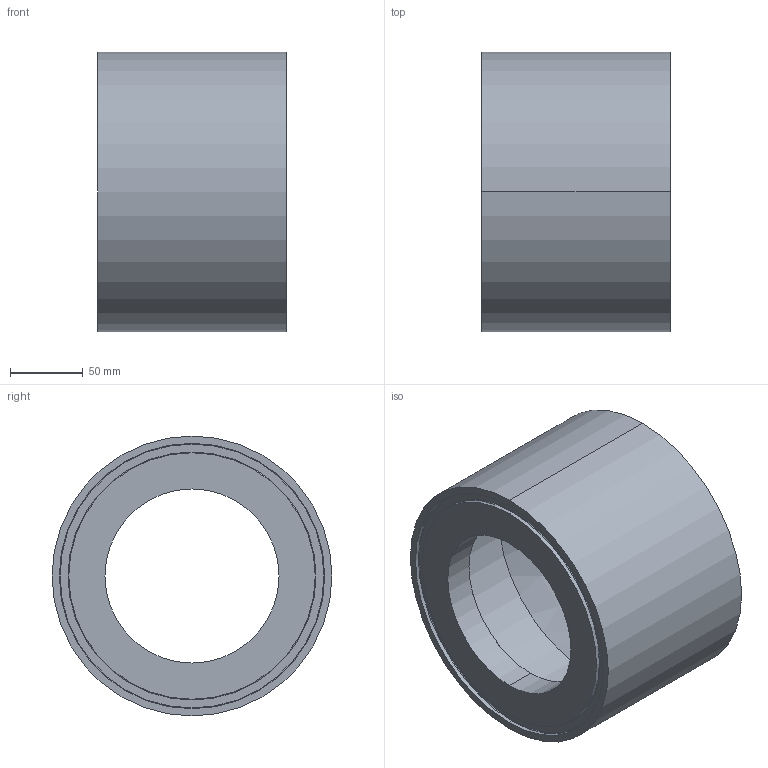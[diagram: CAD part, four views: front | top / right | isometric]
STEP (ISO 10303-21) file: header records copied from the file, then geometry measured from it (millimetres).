
FILE_DESCRIPTION (( 'STEP AP214' ), '1' );
FILE_NAME ('RVZ3139xD20A5A05500_DN125_DIN-RR-Nut_PS40.STEP', '2009-11-10T13:34:54', ( 'Eckhard Grams' ), ( 'AWP Kälte Klima Armaturen GmbH' ), 'SwSTEP 2.0', 'SolidWorks 2002296', '' );
FILE_SCHEMA (( 'AUTOMOTIVE_DESIGN' ));
Length unit declared in the file: millimetre
Products named in the file (2): RVZ3139xD20A5A05500_DN125_DIN-RR-Nut_PS40; Geh 31391K20-5034xx4_DN125_PS63_Geh 31391K20-5034554 RR-Nut
Assembly tree (1 placements, depth 2):
  RVZ3139xD20A5A05500_DN125_DIN-RR-Nut_PS40
    Geh 31391K20-5034xx4_DN125_PS63_Geh 31391K20-5034554 RR-Nut
Bounding box: 130 x 193 x 193 mm (x, y, z)
Volume: 1317114.5 mm3; surface area: 197304.8 mm2
Topology: 1 solids, 1 shells, 51 faces, 102 edges, 62 vertices
Faces by surface type: cylinder 26, torus 12, plane 11, cone 2
Entity records: 1427 total; most frequent: DIRECTION 286, CARTESIAN_POINT 219, ORIENTED_EDGE 204, AXIS2_PLACEMENT_3D 129, EDGE_CURVE 102, CIRCLE 74, VERTEX_POINT 62, EDGE_LOOP 62
